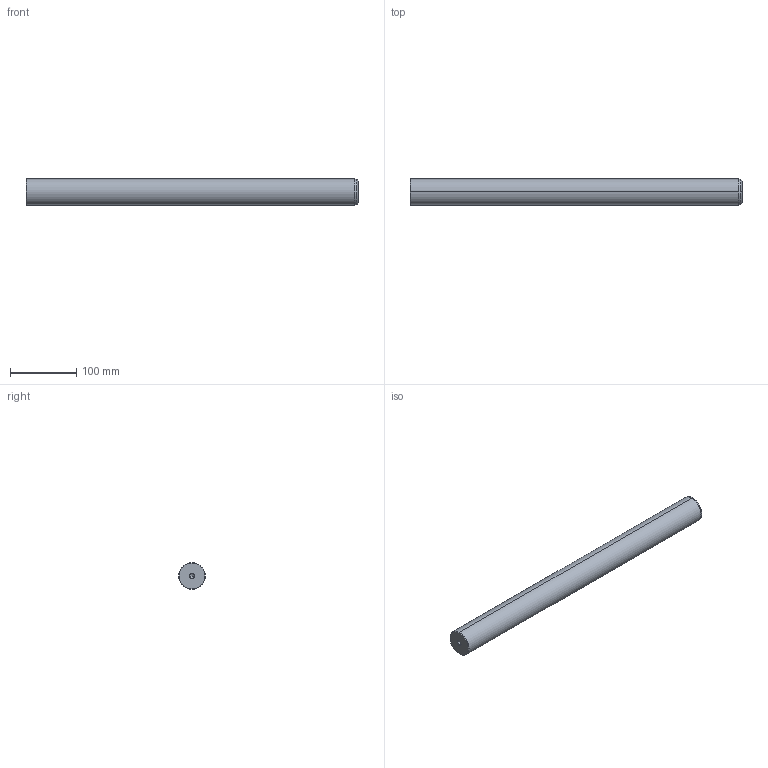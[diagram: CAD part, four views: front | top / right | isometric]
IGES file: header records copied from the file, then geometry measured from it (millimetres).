
Start section: START RECORD GO HERE.
Global section: file name: 720-40x500.igs; native system: DASSAULT SYSTEMES CATIA V5 R20 - www.3ds.com; preprocessor: CATIA Version 5 Release 20 ; author: Utente; organization: NB04-ASUS; date: 20201230.225324; units: millimetre
Bounding box: 500 x 40 x 40 mm (x, y, z)
Surface area: 66016 mm2 (no closed solid volume)
Topology: 0 solids, 0 shells, 22 faces, 120 edges, 116 vertices
Faces by surface type: revolution 20, plane 2
